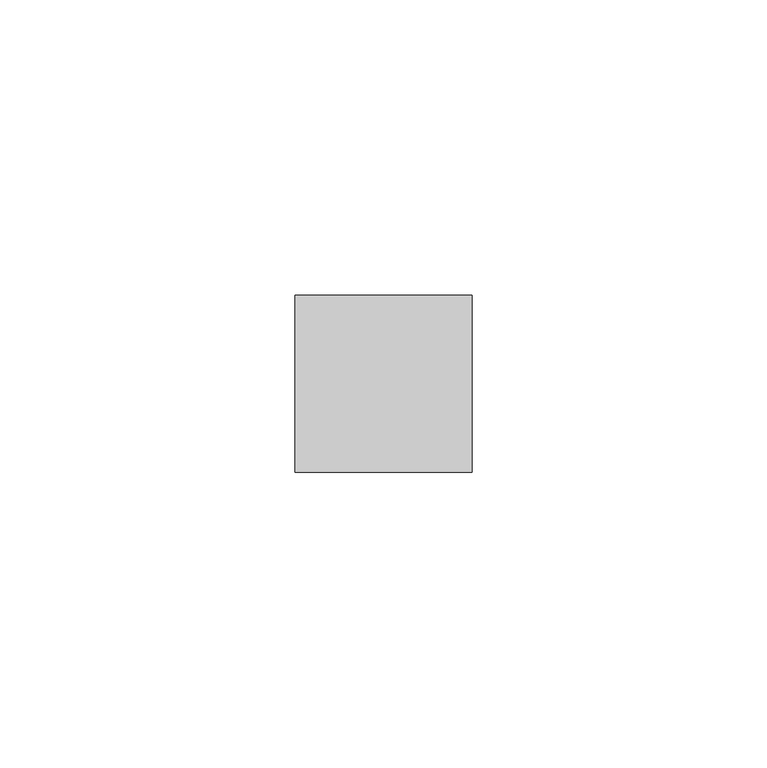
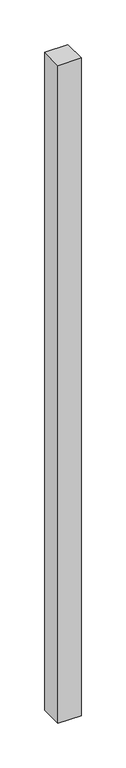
"""IFC4 building model written with IfcOpenShell, lengths in millimetres: member geometry, 矩形竖梃 : 30mm 正方形."""

import ifcopenshell
import ifcopenshell.guid

model = None  # the IFC model being written
_history = None  # IfcOwnerHistory: only IFC2X3 demands one
_inside = {}  # id of a spatial element -> (the spatial element, [elements in it])
_under = {}  # id of a project, library or spatial element -> (it, [spatial elements below it])
_declared = {}  # id of a project -> (the project, [libraries it declares])
_typed = {}  # id of a type object -> (the type object, [elements of that type])
_made_of = {}  # id of a material, layer set ... -> (it, [elements and type objects made of it])


def new_model(schema):
    """Start an empty IFC model of exactly this schema.

    Asked for "IFC4X3", IfcOpenShell would pick the latest addendum, in which some entities
    have other attributes; the version numbers below select the first issue.
    IFC2X3 requires an IfcOwnerHistory on every rooted entity: one is made here for all.
    """
    global model, _history
    if schema == "IFC4X3":
        model = ifcopenshell.file(schema_version=(4, 3, 0, 0))
    else:
        model = ifcopenshell.file(schema=schema)
    _inside.clear()
    _under.clear()
    _declared.clear()
    _typed.clear()
    _made_of.clear()
    _history = None
    if model.schema == "IFC2X3":
        org = make("IfcOrganization", Name="unknown")
        user = make(
            "IfcPersonAndOrganization",
            ThePerson=make("IfcPerson", FamilyName="unknown"),
            TheOrganization=org,
        )
        app = make(
            "IfcApplication",
            ApplicationDeveloper=org,
            Version="unknown",
            ApplicationFullName="unknown",
            ApplicationIdentifier="unknown",
        )
        _history = make(
            "IfcOwnerHistory",
            OwningUser=user,
            OwningApplication=app,
            ChangeAction="ADDED",
            CreationDate=0,
        )
    return model


def make(cls, **values):
    """One entity of the class cls with the attributes given. An attribute that is None is left unset."""
    return model.create_entity(
        cls, **{name: value for name, value in values.items() if value is not None}
    )


def rooted(cls, **values):
    """An entity with a GlobalId (a new one), such as an element, a storey or a relation."""
    return make(cls, GlobalId=ifcopenshell.guid.new(), OwnerHistory=_history, **values)


def si_unit(unit_type, name, prefix=None):
    """IfcSIUnit, for example si_unit("LENGTHUNIT", "METRE", prefix="MILLI")."""
    return make("IfcSIUnit", UnitType=unit_type, Prefix=prefix, Name=name)


def assignment(units):
    """IfcUnitAssignment: the units of a project."""
    return None if units is None else make("IfcUnitAssignment", Units=units)


def point(xyz):
    """IfcCartesianPoint."""
    return None if xyz is None else make("IfcCartesianPoint", Coordinates=xyz)


def direction(xyz):
    """IfcDirection."""
    return None if xyz is None else make("IfcDirection", DirectionRatios=xyz)


def frame(location, z_axis=None, x_axis=None):
    """IfcAxis2Placement3D, a coordinate frame: its origin and axes. An axis left out is left unset."""
    return make(
        "IfcAxis2Placement3D",
        Location=point(location),
        Axis=direction(z_axis),
        RefDirection=direction(x_axis),
    )


def origin():
    """The frame at (0, 0, 0) with its axes left unset."""
    return frame((0.0, 0.0, 0.0))


def place(relative_to, where):
    """IfcLocalPlacement: puts the frame where relative to a parent placement (None: the world)."""
    return make(
        "IfcLocalPlacement", PlacementRelTo=relative_to, RelativePlacement=where
    )


def context(
    kind, dimensions, precision=None, world=None, true_north=None, identifier=None
):
    """IfcGeometricRepresentationContext, for example the 3D "Model" context."""
    return make(
        "IfcGeometricRepresentationContext",
        ContextIdentifier=identifier,
        ContextType=kind,
        CoordinateSpaceDimension=dimensions,
        Precision=precision,
        WorldCoordinateSystem=world,
        TrueNorth=true_north,
    )


def project(units=None, contexts=None):
    """IfcProject with its units and contexts."""
    return rooted(
        "IfcProject",
        Name="project",
        RepresentationContexts=contexts,
        UnitsInContext=assignment(units),
    )


def spatial(cls, under=None, at=None, **own):
    """A site, building, storey or space (cls), placed at a placement, below another one or the project."""
    s = rooted(cls, ObjectPlacement=at, **own)
    if under is not None:
        _under.setdefault(under.id(), (under, []))[1].append(s)
    return s


def polyline(points):
    """IfcPolyline through the points."""
    return make("IfcPolyline", Points=[point(p) for p in points])


def outline(outer, holes=None, kind="AREA"):
    """IfcArbitraryClosedProfileDef: a profile drawn as a closed curve; with holes, ...WithVoids."""
    if holes is None:
        return make("IfcArbitraryClosedProfileDef", ProfileType=kind, OuterCurve=outer)
    return make(
        "IfcArbitraryProfileDefWithVoids",
        ProfileType=kind,
        OuterCurve=outer,
        InnerCurves=holes,
    )


def extrude(swept, where, along, depth):
    """IfcExtrudedAreaSolid: the profile swept, set in the frame where, extruded along a direction by depth."""
    return make(
        "IfcExtrudedAreaSolid",
        SweptArea=swept,
        Position=where,
        ExtrudedDirection=direction(along),
        Depth=depth,
    )


def shape(context_of_items, identifier, shape_type, items):
    """IfcShapeRepresentation: the items that make up one representation, for example the "Body"."""
    return make(
        "IfcShapeRepresentation",
        ContextOfItems=context_of_items,
        RepresentationIdentifier=identifier,
        RepresentationType=shape_type,
        Items=items,
    )


def source(mapping_origin, context_of_items, identifier, shape_type, items):
    """IfcRepresentationMap: a shape defined once, which mapped items show again and again."""
    return make(
        "IfcRepresentationMap",
        MappingOrigin=mapping_origin,
        MappedRepresentation=shape(context_of_items, identifier, shape_type, items),
    )


def transform(
    local_origin,
    x_axis=None,
    y_axis=None,
    z_axis=None,
    scale=None,
    scale2=None,
    scale3=None,
    uniform=True,
):
    """IfcCartesianTransformationOperator3D, or its non-uniform kind. x_axis, y_axis, z_axis: its Axis1, 2, 3."""
    if uniform:
        return make(
            "IfcCartesianTransformationOperator3D",
            Axis1=direction(x_axis),
            Axis2=direction(y_axis),
            LocalOrigin=point(local_origin),
            Scale=scale,
            Axis3=direction(z_axis),
        )
    return make(
        "IfcCartesianTransformationOperator3DnonUniform",
        Axis1=direction(x_axis),
        Axis2=direction(y_axis),
        LocalOrigin=point(local_origin),
        Scale=scale,
        Axis3=direction(z_axis),
        Scale2=scale2,
        Scale3=scale3,
    )


def mapped(mapping_source, mapping_target):
    """IfcMappedItem: shows the shape of a source again, moved by a transform."""
    return make(
        "IfcMappedItem", MappingSource=mapping_source, MappingTarget=mapping_target
    )


def made_of(thing, what):
    """Note that an element or type object is made of a material, layer set ...; save() writes the relation."""
    if what is not None:
        _made_of.setdefault(what.id(), (what, []))[1].append(thing)
    return thing


def element(
    cls,
    number,
    at=None,
    inside=None,
    cuts=None,
    type_object=None,
    material=None,
    context=None,
    identifier="Body",
    shape_type=None,
    held_by="IfcProductDefinitionShape",
    body=None,
    shapes=None,
    **own,
):
    """One element of the class cls, such as IfcWall. Its Tag is "e" and its number.

    at: its placement. inside: the storey or other place that contains it. cuts: it is an
    opening in that element (IfcRelVoidsElement). A single representation is given by context,
    identifier, shape_type and body (its items); several are given by shapes. held_by: the class
    of the entity that holds the representations. save() writes the other relations.
    """
    e = rooted(cls, Tag="e%d" % number, ObjectPlacement=at, **own)
    if body is not None:
        shapes = [shape(context, identifier, shape_type, body)]
    if shapes is not None:
        e.Representation = make(held_by, Representations=shapes)
    if inside is not None:
        _inside.setdefault(inside.id(), (inside, []))[1].append(e)
    if cuts is not None:
        rooted(
            "IfcRelVoidsElement", RelatingBuildingElement=cuts, RelatedOpeningElement=e
        )
    if type_object is not None:
        _typed.setdefault(type_object.id(), (type_object, []))[1].append(e)
    return made_of(e, material)


def aggregate(whole, parts):
    """IfcRelAggregates: a whole, such as a stair, and the parts it consists of."""
    return rooted("IfcRelAggregates", RelatingObject=whole, RelatedObjects=parts)


def save(model, path):
    """Write the relations noted so far, then the file.

    IfcRelAggregates (storeys below a building ...), IfcRelContainedInSpatialStructure (elements
    in a storey), IfcRelDefinesByType, IfcRelAssociatesMaterial and IfcRelDeclares: one each for
    every whole, place, type object, material and project.
    """
    for whole, parts in _under.values():
        aggregate(whole, parts)
    for where, things in _inside.values():
        rooted(
            "IfcRelContainedInSpatialStructure",
            RelatedElements=things,
            RelatingStructure=where,
        )
    for kind, things in _typed.values():
        rooted("IfcRelDefinesByType", RelatedObjects=things, RelatingType=kind)
    for what, things in _made_of.values():
        rooted("IfcRelAssociatesMaterial", RelatedObjects=things, RelatingMaterial=what)
    for by, libraries in _declared.values():
        rooted("IfcRelDeclares", RelatingContext=by, RelatedDefinitions=libraries)
    model.write(path)


def member_002d80ed(model_context):
    return source(origin(), model_context, "Body", "SweptSolid", [
        extrude(outline(polyline([(0.0, 15.0), (0.0, -15.0), (-30.0, -15.0), (-30.0, 15.0), (0.0, 15.0)])), frame((0.0, 0.0, -900.0), z_axis=(0.0, 0.0, 1.0), x_axis=(1.0, 0.0, 0.0)), (0.0, 0.0, 1.0), 900.0),
    ])


if __name__ == "__main__":
    model = new_model("IFC4")
    model_context = context("Model", 3, world=origin())
    ifc_project = project(units=[si_unit("LENGTHUNIT", "METRE", prefix="MILLI")], contexts=[model_context])
    site = spatial("IfcSite", under=ifc_project)
    building = spatial("IfcBuilding", under=site)
    placement = place(None, origin())
    member_shape = member_002d80ed(model_context)
    element("IfcMember", 1, ObjectType="矩形竖梃 : 30mm 正方形", at=placement, inside=building, context=model_context, shape_type="MappedRepresentation", body=[
        mapped(member_shape, transform((0.0, 0.0, 0.0), x_axis=(1.0, 0.0, 0.0), y_axis=(0.0, 1.0, 0.0), z_axis=(0.0, 0.0, 1.0))),
    ])
    save(model, "model.ifc")
